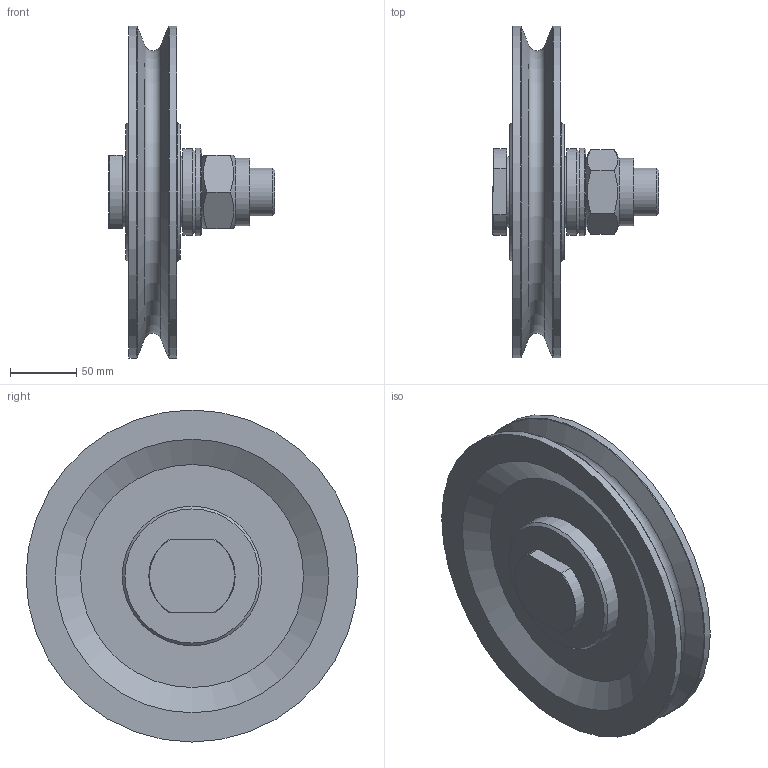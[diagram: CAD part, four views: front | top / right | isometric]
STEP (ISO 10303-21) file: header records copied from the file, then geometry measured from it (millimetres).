
FILE_DESCRIPTION(/* description */ ('Seilrolle ø250 feststehende Achse'),/* implementation_level */ '2;1');
FILE_NAME(/* name */ 'Z:\Workspace\03 Seilrollen\1.408 Seilrollen feststehende Achse Gleitlager\1.408.07 Seilrolle ø250 feststehende Achse GL\1.408.07 Seilrolle ø250 feststehende Achse.stp',/* time_stamp */ '2021-10-11T10:48:00+02:00',/* author */ ('cad-user'),/* organization */ (''),/* preprocessor_version */ 'ST-DEVELOPER v18',/* originating_system */ 'Autodesk Inventor 2020',/* authorisation */ '');
FILE_SCHEMA (('AUTOMOTIVE_DESIGN { 1 0 10303 214 3 1 1 }'));
Length unit declared in the file: millimetre
Products named in the file (9): 1.408.07 Seilrolle ø250 feststehende Achse; 1.401.07 Seilrolle ø250 Buchse komplett; 1.401.07 Seilrolle ø250 Buchse; Bundbuchse BB4044-16-DU; Bundbuchse BB4044-26-DU; 1.408.07.02 Scheibe; 1.408.07.01 Schraube; DIN 985 - M36; DIN 125-1 - B 37
Assembly tree (8 placements, depth 3):
  1.408.07 Seilrolle ø250 feststehende Achse
    1.401.07 Seilrolle ø250 Buchse komplett
      1.401.07 Seilrolle ø250 Buchse
      Bundbuchse BB4044-16-DU
      Bundbuchse BB4044-26-DU
    1.408.07.02 Scheibe
    1.408.07.01 Schraube
    DIN 985 - M36
    DIN 125-1 - B 37
Bounding box: 125 x 250 x 250 mm (x, y, z)
Volume: 1375542.8 mm3; surface area: 217558 mm2
Topology: 7 solids, 7 shells, 81 faces, 192 edges, 127 vertices
Faces by surface type: plane 34, cone 21, cylinder 21, torus 5
Full cylindrical faces by diameter (mm): 31.67 x1, 36 x1, 37 x1, 38 x1, 40 x3, 44 x1, 51.1 x1, 65 x1, 66 x1, 105 x2, 250 x2
Entity records: 2747 total; most frequent: CARTESIAN_POINT 501, DIRECTION 458, ORIENTED_EDGE 384, AXIS2_PLACEMENT_3D 196, EDGE_CURVE 192, VERTEX_POINT 127, CIRCLE 98, EDGE_LOOP 95
